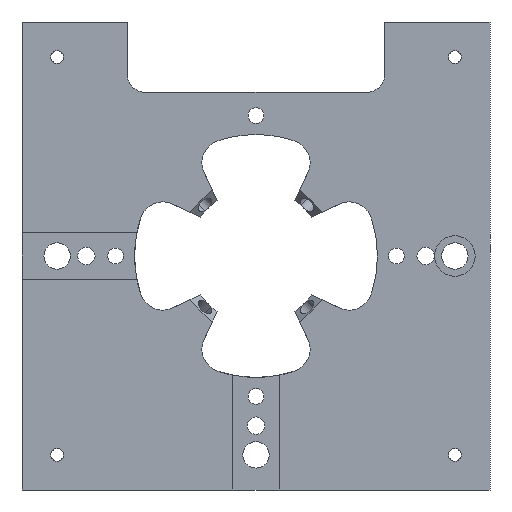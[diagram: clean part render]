
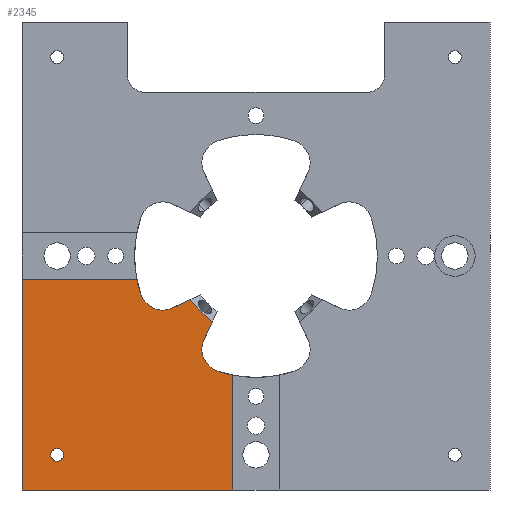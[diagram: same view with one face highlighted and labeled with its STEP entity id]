
A CAD part, front view. The second image highlights one B-rep face of the part: STEP entity #2345.
In plain terms, the highlighted planar face has unit normal (0, -1, 0).
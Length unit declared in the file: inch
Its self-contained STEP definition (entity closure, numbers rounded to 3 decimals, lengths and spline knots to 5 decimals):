
#37 = EDGE_CURVE ( 'NONE', #479, #138, #1367, .T. ) ;
#46 = CARTESIAN_POINT ( 'NONE',  ( -2.125, 0., -2.125 ) ) ;
#63 = AXIS2_PLACEMENT_3D ( 'NONE', #3319, #849, #1116 ) ;
#75 = FACE_BOUND ( 'NONE', #2412, .T. ) ;
#81 = DIRECTION ( 'NONE',  ( 0., 1., 0. ) ) ;
#138 = VERTEX_POINT ( 'NONE', #559 ) ;
#217 = LINE ( 'NONE', #3245, #3158 ) ;
#231 = AXIS2_PLACEMENT_3D ( 'NONE', #576, #328, #1971 ) ;
#302 = CARTESIAN_POINT ( 'NONE',  ( -0.25, 0., -2.5 ) ) ;
#303 = CARTESIAN_POINT ( 'NONE',  ( 0., 0., 0. ) ) ;
#328 = DIRECTION ( 'NONE',  ( 0., 1., 0. ) ) ;
#360 = DIRECTION ( 'NONE',  ( 0., 1., 0. ) ) ;
#378 = DIRECTION ( 'NONE',  ( -1., 0., 0. ) ) ;
#405 = CIRCLE ( 'NONE', #3218, 0.25 ) ;
#432 = ORIENTED_EDGE ( 'NONE', *, *, #37, .F. ) ;
#479 = VERTEX_POINT ( 'NONE', #989 ) ;
#559 = CARTESIAN_POINT ( 'NONE',  ( -2.5, 0., -0.25 ) ) ;
#566 = DIRECTION ( 'NONE',  ( 0., 1., 0. ) ) ;
#576 = CARTESIAN_POINT ( 'NONE',  ( 0., 0., 0. ) ) ;
#598 = ORIENTED_EDGE ( 'NONE', *, *, #2424, .T. ) ;
#607 = EDGE_CURVE ( 'NONE', #718, #2973, #2146, .T. ) ;
#622 = AXIS2_PLACEMENT_3D ( 'NONE', #3401, #360, #3114 ) ;
#630 = ORIENTED_EDGE ( 'NONE', *, *, #1293, .T. ) ;
#640 = CARTESIAN_POINT ( 'NONE',  ( -0.46927, 0., -0.70636 ) ) ;
#655 = VERTEX_POINT ( 'NONE', #2959 ) ;
#668 = CARTESIAN_POINT ( 'NONE',  ( -2.5, 0., -2.5 ) ) ;
#718 = VERTEX_POINT ( 'NONE', #3515 ) ;
#734 = VECTOR ( 'NONE', #378, 39.37008 ) ;
#801 = ORIENTED_EDGE ( 'NONE', *, *, #607, .T. ) ;
#818 = EDGE_CURVE ( 'NONE', #1755, #2399, #1507, .T. ) ;
#849 = DIRECTION ( 'NONE',  ( 0., -1., 0. ) ) ;
#854 = DIRECTION ( 'NONE',  ( 0., 1., 0. ) ) ;
#858 = EDGE_CURVE ( 'NONE', #138, #2399, #1115, .T. ) ;
#866 = VECTOR ( 'NONE', #2530, 39.37008 ) ;
#871 = CARTESIAN_POINT ( 'NONE',  ( -0.99484, 0., -0.32795 ) ) ;
#989 = CARTESIAN_POINT ( 'NONE',  ( -2.5, 0., -2.5 ) ) ;
#1024 = CARTESIAN_POINT ( 'NONE',  ( 0.3, 0., 0. ) ) ;
#1078 = CIRCLE ( 'NONE', #3499, 0.068 ) ;
#1115 = LINE ( 'NONE', #1433, #866 ) ;
#1116 = DIRECTION ( 'NONE',  ( 0., 0., -1. ) ) ;
#1143 = AXIS2_PLACEMENT_3D ( 'NONE', #303, #566, #1878 ) ;
#1266 = EDGE_CURVE ( 'NONE', #2021, #479, #2879, .T. ) ;
#1281 = DIRECTION ( 'NONE',  ( -0.906, 0., -0.423 ) ) ;
#1285 = EDGE_LOOP ( 'NONE', ( #3533, #2208, #630, #2197, #2769, #801, #598, #3532, #1520, #432, #2954 ) ) ;
#1293 = EDGE_CURVE ( 'NONE', #1635, #3459, #1898, .T. ) ;
#1336 = VECTOR ( 'NONE', #1582, 39.37008 ) ;
#1367 = LINE ( 'NONE', #2698, #2011 ) ;
#1397 = DIRECTION ( 'NONE',  ( 0., 0., 1. ) ) ;
#1402 = VERTEX_POINT ( 'NONE', #3253 ) ;
#1408 = CARTESIAN_POINT ( 'NONE',  ( -0.40622, 0., -1.23227 ) ) ;
#1433 = CARTESIAN_POINT ( 'NONE',  ( -1.15, 0., -0.25 ) ) ;
#1478 = DIRECTION ( 'NONE',  ( 0., 0., 1. ) ) ;
#1507 = CIRCLE ( 'NONE', #231, 1.2975 ) ;
#1520 = ORIENTED_EDGE ( 'NONE', *, *, #858, .F. ) ;
#1582 = DIRECTION ( 'NONE',  ( 0.423, 0., 0.906 ) ) ;
#1635 = VERTEX_POINT ( 'NONE', #1408 ) ;
#1755 = VERTEX_POINT ( 'NONE', #2877 ) ;
#1815 = CARTESIAN_POINT ( 'NONE',  ( 0., 0., 0.3 ) ) ;
#1878 = DIRECTION ( 'NONE',  ( -1., 0., 0. ) ) ;
#1898 = CIRCLE ( 'NONE', #622, 0.25 ) ;
#1961 = DIRECTION ( 'NONE',  ( 0.707, 0., -0.707 ) ) ;
#1971 = DIRECTION ( 'NONE',  ( 0., 0., 1. ) ) ;
#2003 = CARTESIAN_POINT ( 'NONE',  ( -1.27319, 0., -0.25 ) ) ;
#2011 = VECTOR ( 'NONE', #2987, 39.37008 ) ;
#2021 = VERTEX_POINT ( 'NONE', #302 ) ;
#2057 = VECTOR ( 'NONE', #1281, 39.37008 ) ;
#2077 = VERTEX_POINT ( 'NONE', #2921 ) ;
#2081 = VECTOR ( 'NONE', #1961, 39.37008 ) ;
#2146 = LINE ( 'NONE', #1024, #2057 ) ;
#2197 = ORIENTED_EDGE ( 'NONE', *, *, #3042, .T. ) ;
#2208 = ORIENTED_EDGE ( 'NONE', *, *, #3566, .T. ) ;
#2225 = EDGE_CURVE ( 'NONE', #2077, #2021, #217, .T. ) ;
#2240 = DIRECTION ( 'NONE',  ( 0., 1., 0. ) ) ;
#2265 = DIRECTION ( 'NONE',  ( 0., 0., 1. ) ) ;
#2345 = ADVANCED_FACE ( 'NONE', ( #2531, #75 ), #2762, .T. ) ;
#2371 = AXIS2_PLACEMENT_3D ( 'NONE', #46, #81, #1478 ) ;
#2399 = VERTEX_POINT ( 'NONE', #2003 ) ;
#2402 = DIRECTION ( 'NONE',  ( 0., 0., -1. ) ) ;
#2412 = EDGE_LOOP ( 'NONE', ( #3201, #2782 ) ) ;
#2424 = EDGE_CURVE ( 'NONE', #2973, #1755, #405, .T. ) ;
#2502 = LINE ( 'NONE', #3329, #2081 ) ;
#2527 = CIRCLE ( 'NONE', #1143, 1.2975 ) ;
#2530 = DIRECTION ( 'NONE',  ( 1., 0., 0. ) ) ;
#2531 = FACE_OUTER_BOUND ( 'NONE', #1285, .T. ) ;
#2656 = CIRCLE ( 'NONE', #2371, 0.068 ) ;
#2672 = VERTEX_POINT ( 'NONE', #640 ) ;
#2698 = CARTESIAN_POINT ( 'NONE',  ( -2.5, 0., 2.5 ) ) ;
#2762 = PLANE ( 'NONE',  #63 ) ;
#2769 = ORIENTED_EDGE ( 'NONE', *, *, #2841, .F. ) ;
#2782 = ORIENTED_EDGE ( 'NONE', *, *, #2876, .T. ) ;
#2841 = EDGE_CURVE ( 'NONE', #718, #2672, #2502, .T. ) ;
#2876 = EDGE_CURVE ( 'NONE', #1402, #655, #2656, .T. ) ;
#2877 = CARTESIAN_POINT ( 'NONE',  ( -1.23227, 0., -0.40622 ) ) ;
#2879 = LINE ( 'NONE', #668, #734 ) ;
#2916 = CARTESIAN_POINT ( 'NONE',  ( -0.55453, 0., -0.88918 ) ) ;
#2921 = CARTESIAN_POINT ( 'NONE',  ( -0.25, 0., -1.27319 ) ) ;
#2954 = ORIENTED_EDGE ( 'NONE', *, *, #1266, .F. ) ;
#2959 = CARTESIAN_POINT ( 'NONE',  ( -2.125, 0., -2.057 ) ) ;
#2973 = VERTEX_POINT ( 'NONE', #3383 ) ;
#2987 = DIRECTION ( 'NONE',  ( 0., 0., 1. ) ) ;
#3042 = EDGE_CURVE ( 'NONE', #3459, #2672, #3175, .T. ) ;
#3114 = DIRECTION ( 'NONE',  ( 1., 0., 0. ) ) ;
#3158 = VECTOR ( 'NONE', #2402, 39.37008 ) ;
#3175 = LINE ( 'NONE', #1815, #1336 ) ;
#3201 = ORIENTED_EDGE ( 'NONE', *, *, #3278, .T. ) ;
#3218 = AXIS2_PLACEMENT_3D ( 'NONE', #871, #2240, #1397 ) ;
#3245 = CARTESIAN_POINT ( 'NONE',  ( -0.25, 0., -1.145 ) ) ;
#3253 = CARTESIAN_POINT ( 'NONE',  ( -2.125, 0., -2.193 ) ) ;
#3278 = EDGE_CURVE ( 'NONE', #655, #1402, #1078, .T. ) ;
#3319 = CARTESIAN_POINT ( 'NONE',  ( 0., 0., 0. ) ) ;
#3329 = CARTESIAN_POINT ( 'NONE',  ( -0.72924, 0., -0.44639 ) ) ;
#3383 = CARTESIAN_POINT ( 'NONE',  ( -0.88918, 0., -0.55453 ) ) ;
#3396 = CARTESIAN_POINT ( 'NONE',  ( -2.125, 0., -2.125 ) ) ;
#3401 = CARTESIAN_POINT ( 'NONE',  ( -0.32795, 0., -0.99484 ) ) ;
#3459 = VERTEX_POINT ( 'NONE', #2916 ) ;
#3499 = AXIS2_PLACEMENT_3D ( 'NONE', #3396, #854, #2265 ) ;
#3515 = CARTESIAN_POINT ( 'NONE',  ( -0.70636, 0., -0.46927 ) ) ;
#3532 = ORIENTED_EDGE ( 'NONE', *, *, #818, .T. ) ;
#3533 = ORIENTED_EDGE ( 'NONE', *, *, #2225, .F. ) ;
#3566 = EDGE_CURVE ( 'NONE', #2077, #1635, #2527, .T. ) ;
